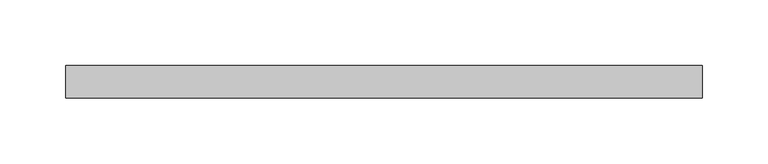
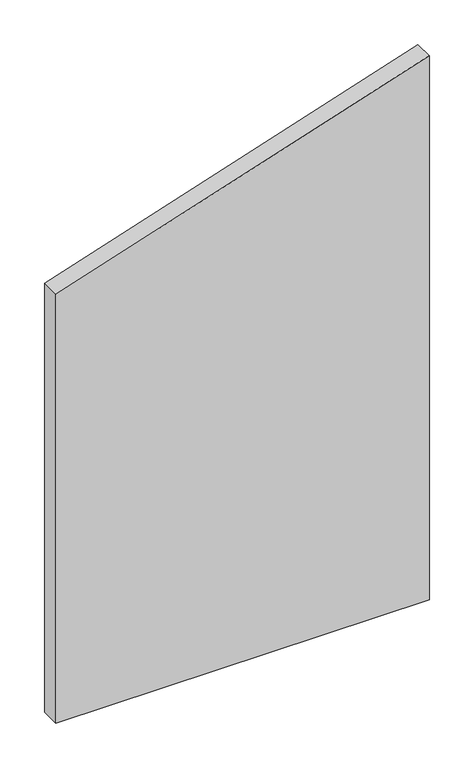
"""IFC4 building model written with IfcOpenShell, lengths in millimetres: plate geometry, Системная панель : ADSK_Cтеклопакет_25 мм."""

from ifc_helpers import new_model, si_unit, frame, origin, place, context, project, spatial, polyline, outline, extrude, source, transform, mapped, element, save


def plate_40863914(model_context):
    return source(origin(), model_context, "Body", "SweptSolid", [
        extrude(outline(polyline([(0.0, -242.5087699), (0.0, 242.5087699), (746.2263152, 242.5087699), (588.6345635, -242.5087699), (0.0, -242.5087699)])), frame((0.0, -12.5, 0.0), z_axis=(0.0, 1.0, 0.0), x_axis=(0.0, 0.0, 1.0)), (0.0, 0.0, 1.0), 25.0),
    ])


if __name__ == "__main__":
    model = new_model("IFC4")
    model_context = context("Model", 3, world=origin())
    ifc_project = project(units=[si_unit("LENGTHUNIT", "METRE", prefix="MILLI")], contexts=[model_context])
    site = spatial("IfcSite", under=ifc_project)
    building = spatial("IfcBuilding", under=site)
    placement = place(None, origin())
    plate_shape = plate_40863914(model_context)
    element("IfcPlate", 1, ObjectType="Системная панель : ADSK_Cтеклопакет_25 мм", at=placement, inside=building, context=model_context, shape_type="MappedRepresentation", body=[
        mapped(plate_shape, transform((0.0, 0.0, 0.0), x_axis=(1.0, 0.0, 0.0), y_axis=(0.0, 1.0, 0.0), z_axis=(0.0, 0.0, 1.0))),
    ])
    save(model, "model.ifc")
